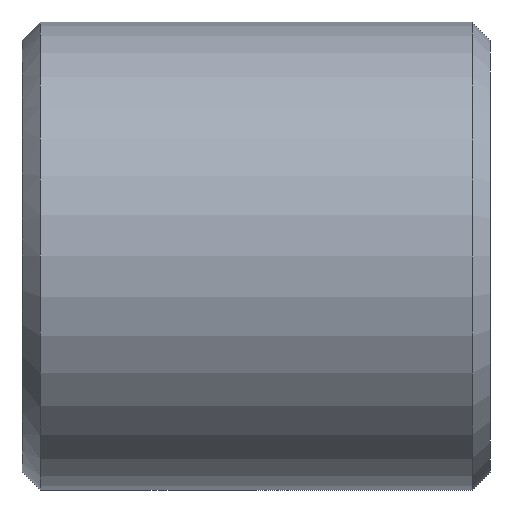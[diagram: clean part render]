
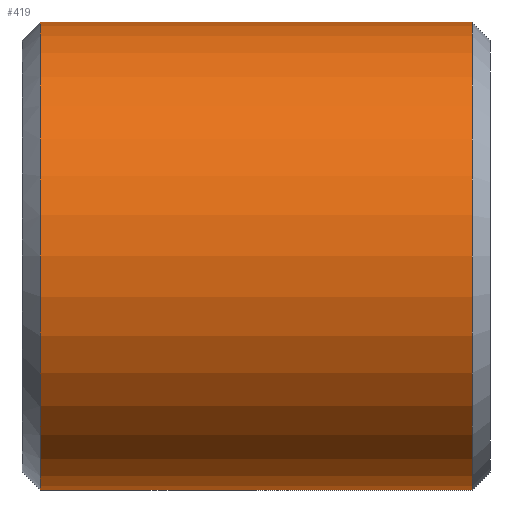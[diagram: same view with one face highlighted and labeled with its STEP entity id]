
A CAD part, front view. The second image highlights one B-rep face of the part: STEP entity #419.
In plain terms, the highlighted cylindrical face has radius 13 mm (diameter 26 mm), a partial arc.
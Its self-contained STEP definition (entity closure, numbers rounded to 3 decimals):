
#231=CARTESIAN_POINT('Vertex',(1.,0.,-13.)) ;
#238=CARTESIAN_POINT('Vertex',(1.,0.,13.)) ;
#267=CARTESIAN_POINT('Axis2P3D Location',(1.,0.,0.)) ;
#271=CARTESIAN_POINT('Vertex',(1.,-13.,0.)) ;
#274=CARTESIAN_POINT('Axis2P3D Location',(1.,0.,0.)) ;
#359=CARTESIAN_POINT('Line Origine',(26.,0.,13.)) ;
#363=CARTESIAN_POINT('Vertex',(25.,0.,13.)) ;
#377=CARTESIAN_POINT('Vertex',(25.,0.,-13.)) ;
#380=CARTESIAN_POINT('Line Origine',(26.,0.,-13.)) ;
#394=CARTESIAN_POINT('Axis2P3D Location',(26.,0.,0.)) ;
#399=CARTESIAN_POINT('Axis2P3D Location',(25.,0.,0.)) ;
#403=CARTESIAN_POINT('Vertex',(25.,-13.,0.)) ;
#406=CARTESIAN_POINT('Axis2P3D Location',(25.,0.,0.)) ;
#268=DIRECTION('Axis2P3D Direction',(1.,0.,-0.)) ;
#275=DIRECTION('Axis2P3D Direction',(1.,0.,-0.)) ;
#360=DIRECTION('Vector Direction',(-1.,0.,0.)) ;
#381=DIRECTION('Vector Direction',(-1.,0.,0.)) ;
#395=DIRECTION('Axis2P3D Direction',(-1.,-0.,-0.)) ;
#396=DIRECTION('Axis2P3D XDirection',(0.,0.,-1.)) ;
#400=DIRECTION('Axis2P3D Direction',(-1.,-0.,-0.)) ;
#407=DIRECTION('Axis2P3D Direction',(-1.,-0.,-0.)) ;
#269=AXIS2_PLACEMENT_3D('Circle Axis2P3D',#267,#268,$) ;
#276=AXIS2_PLACEMENT_3D('Circle Axis2P3D',#274,#275,$) ;
#397=AXIS2_PLACEMENT_3D('Cylinder Axis2P3D',#394,#395,#396) ;
#401=AXIS2_PLACEMENT_3D('Circle Axis2P3D',#399,#400,$) ;
#408=AXIS2_PLACEMENT_3D('Circle Axis2P3D',#406,#407,$) ;
#412=ORIENTED_EDGE('',*,*,#384,.T.) ;
#413=ORIENTED_EDGE('',*,*,#405,.F.) ;
#414=ORIENTED_EDGE('',*,*,#410,.F.) ;
#415=ORIENTED_EDGE('',*,*,#365,.T.) ;
#416=ORIENTED_EDGE('',*,*,#278,.T.) ;
#417=ORIENTED_EDGE('',*,*,#273,.T.) ;
#361=VECTOR('Line Direction',#360,1.) ;
#382=VECTOR('Line Direction',#381,1.) ;
#419=ADVANCED_FACE('352-18X26',(#418),#398,.T.) ;
#270=CIRCLE('generated circle',#269,13.) ;
#277=CIRCLE('generated circle',#276,13.) ;
#402=CIRCLE('generated circle',#401,13.) ;
#409=CIRCLE('generated circle',#408,13.) ;
#398=CYLINDRICAL_SURFACE('generated cylinder',#397,13.) ;
#273=EDGE_CURVE('',#272,#232,#270,.T.) ;
#278=EDGE_CURVE('',#239,#272,#277,.T.) ;
#365=EDGE_CURVE('',#364,#239,#362,.T.) ;
#384=EDGE_CURVE('',#232,#378,#383,.F.) ;
#405=EDGE_CURVE('',#404,#378,#402,.F.) ;
#410=EDGE_CURVE('',#364,#404,#409,.F.) ;
#411=EDGE_LOOP('',(#412,#413,#414,#415,#416,#417)) ;
#418=FACE_OUTER_BOUND('',#411,.T.) ;
#362=LINE('Line',#359,#361) ;
#383=LINE('Line',#380,#382) ;
#232=VERTEX_POINT('',#231) ;
#239=VERTEX_POINT('',#238) ;
#272=VERTEX_POINT('',#271) ;
#364=VERTEX_POINT('',#363) ;
#378=VERTEX_POINT('',#377) ;
#404=VERTEX_POINT('',#403) ;
